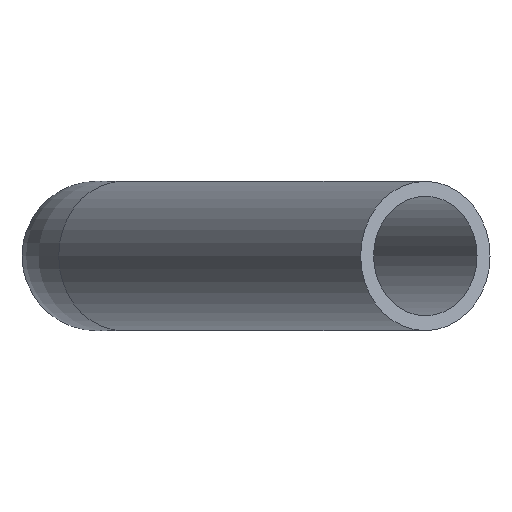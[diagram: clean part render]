
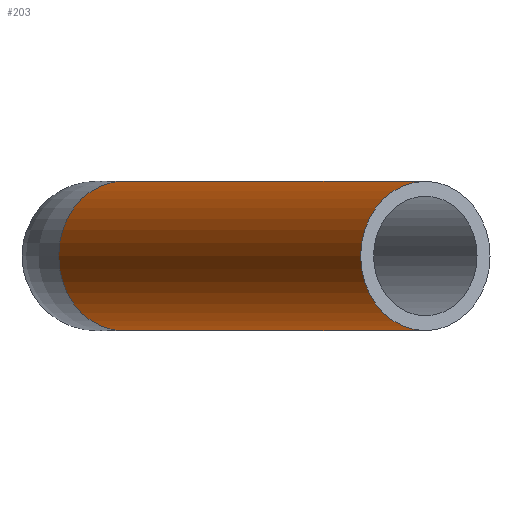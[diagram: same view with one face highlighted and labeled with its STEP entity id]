
A CAD part, left-side view. The second image highlights one B-rep face of the part: STEP entity #203.
In plain terms, the highlighted cylindrical face has radius 7.5 mm (diameter 15 mm), a full revolution.
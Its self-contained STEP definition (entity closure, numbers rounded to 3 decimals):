
#172=CARTESIAN_POINT('',(-13.75,23.816,0.));
#173=VERTEX_POINT('',#172);
#174=CARTESIAN_POINT('',(-10.,17.321,0.0));
#175=DIRECTION('',(-0.866,-0.5,0.0));
#176=DIRECTION('',(0.5,-0.866,0.0));
#177=AXIS2_PLACEMENT_3D('',#174,#175,#176);
#178=CIRCLE('',#177,7.5);
#179=EDGE_CURVE('',#173,#173,#178,.T.);
#184=CARTESIAN_POINT('',(-62.517,-13.,0.0));
#185=DIRECTION('',(0.866,0.5,0.0));
#186=DIRECTION('',(0.5,-0.866,0.0));
#187=AXIS2_PLACEMENT_3D('',#184,#185,#186);
#188=CYLINDRICAL_SURFACE('',#187,7.5);
#189=ORIENTED_EDGE('',*,*,#179,.T.);
#190=EDGE_LOOP('',(#189));
#191=FACE_OUTER_BOUND('',#190,.T.);
#192=CARTESIAN_POINT('',(-66.267,-6.505,0.));
#193=VERTEX_POINT('',#192);
#194=CARTESIAN_POINT('',(-62.517,-13.,0.0));
#195=DIRECTION('',(-0.866,-0.5,0.0));
#196=DIRECTION('',(0.5,-0.866,0.0));
#197=AXIS2_PLACEMENT_3D('',#194,#195,#196);
#198=CIRCLE('',#197,7.5);
#199=EDGE_CURVE('',#193,#193,#198,.T.);
#200=ORIENTED_EDGE('',*,*,#199,.F.);
#201=EDGE_LOOP('',(#200));
#202=FACE_BOUND('',#201,.T.);
#203=ADVANCED_FACE('',(#191,#202),#188,.T.);
